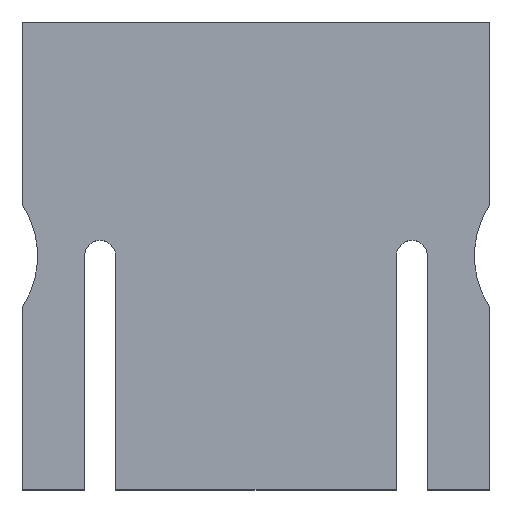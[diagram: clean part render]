
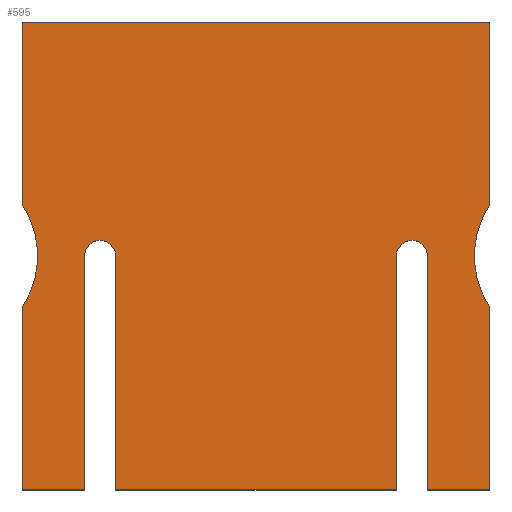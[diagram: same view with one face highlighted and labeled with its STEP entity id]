
A CAD part, top view. The second image highlights one B-rep face of the part: STEP entity #595.
In plain terms, the highlighted planar face has unit normal (0, 0, 1).
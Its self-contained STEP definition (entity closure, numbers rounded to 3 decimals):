
#84=CARTESIAN_POINT('',(273.05,47.625,6.35));
#85=VERTEX_POINT('',#84);
#92=CARTESIAN_POINT('',(266.7,47.625,6.35));
#93=VERTEX_POINT('',#92);
#94=CARTESIAN_POINT('',(269.875,47.625,6.35));
#95=DIRECTION('',(0.0,0.0,-1.0));
#96=DIRECTION('',(-1.0,0.0,0.0));
#97=AXIS2_PLACEMENT_3D('',#94,#95,#96);
#98=CIRCLE('',#97,3.175);
#99=EDGE_CURVE('',#93,#85,#98,.T.);
#124=CARTESIAN_POINT('',(266.7,0.0,6.35));
#125=VERTEX_POINT('',#124);
#126=CARTESIAN_POINT('',(266.7,0.0,6.35));
#127=DIRECTION('',(0.0,1.0,0.0));
#128=VECTOR('',#127,47.625);
#129=LINE('',#126,#128);
#130=EDGE_CURVE('',#125,#93,#129,.T.);
#155=CARTESIAN_POINT('',(209.55,0.0,6.35));
#156=VERTEX_POINT('',#155);
#157=CARTESIAN_POINT('',(209.55,0.0,6.35));
#158=DIRECTION('',(1.0,0.0,0.0));
#159=VECTOR('',#158,57.15);
#160=LINE('',#157,#159);
#161=EDGE_CURVE('',#156,#125,#160,.T.);
#186=CARTESIAN_POINT('',(209.55,47.625,6.35));
#187=VERTEX_POINT('',#186);
#188=CARTESIAN_POINT('',(209.55,47.625,6.35));
#189=DIRECTION('',(0.0,-1.0,0.0));
#190=VECTOR('',#189,47.625);
#191=LINE('',#188,#190);
#192=EDGE_CURVE('',#187,#156,#191,.T.);
#218=CARTESIAN_POINT('',(203.2,47.625,6.35));
#219=VERTEX_POINT('',#218);
#220=CARTESIAN_POINT('',(206.375,47.625,6.35));
#221=DIRECTION('',(0.0,0.0,-1.0));
#222=DIRECTION('',(-1.0,0.0,0.0));
#223=AXIS2_PLACEMENT_3D('',#220,#221,#222);
#224=CIRCLE('',#223,3.175);
#225=EDGE_CURVE('',#219,#187,#224,.T.);
#250=CARTESIAN_POINT('',(203.2,0.0,6.35));
#251=VERTEX_POINT('',#250);
#252=CARTESIAN_POINT('',(203.2,0.0,6.35));
#253=DIRECTION('',(0.0,1.0,0.0));
#254=VECTOR('',#253,47.625);
#255=LINE('',#252,#254);
#256=EDGE_CURVE('',#251,#219,#255,.T.);
#281=CARTESIAN_POINT('',(190.5,0.0,6.35));
#282=VERTEX_POINT('',#281);
#283=CARTESIAN_POINT('',(190.5,0.0,6.35));
#284=DIRECTION('',(1.0,0.0,0.0));
#285=VECTOR('',#284,12.7);
#286=LINE('',#283,#285);
#287=EDGE_CURVE('',#282,#251,#286,.T.);
#312=CARTESIAN_POINT('',(190.5,37.095,6.35));
#313=VERTEX_POINT('',#312);
#314=CARTESIAN_POINT('',(190.5,37.095,6.35));
#315=DIRECTION('',(0.0,-1.0,0.0));
#316=VECTOR('',#315,37.095);
#317=LINE('',#314,#316);
#318=EDGE_CURVE('',#313,#282,#317,.T.);
#344=CARTESIAN_POINT('',(190.5,58.155,6.35));
#345=VERTEX_POINT('',#344);
#346=CARTESIAN_POINT('',(174.625,47.625,6.35));
#347=DIRECTION('',(0.0,0.0,-1.0));
#348=DIRECTION('',(-0.833,0.553,0.0));
#349=AXIS2_PLACEMENT_3D('',#346,#347,#348);
#350=CIRCLE('',#349,19.05);
#351=EDGE_CURVE('',#345,#313,#350,.T.);
#376=CARTESIAN_POINT('',(190.5,95.25,6.35));
#377=VERTEX_POINT('',#376);
#378=CARTESIAN_POINT('',(190.5,95.25,6.35));
#379=DIRECTION('',(0.0,-1.0,0.0));
#380=VECTOR('',#379,37.095);
#381=LINE('',#378,#380);
#382=EDGE_CURVE('',#377,#345,#381,.T.);
#407=CARTESIAN_POINT('',(285.75,95.25,6.35));
#408=VERTEX_POINT('',#407);
#409=CARTESIAN_POINT('',(285.75,95.25,6.35));
#410=DIRECTION('',(-1.0,0.0,0.0));
#411=VECTOR('',#410,95.25);
#412=LINE('',#409,#411);
#413=EDGE_CURVE('',#408,#377,#412,.T.);
#438=CARTESIAN_POINT('',(285.75,58.155,6.35));
#439=VERTEX_POINT('',#438);
#440=CARTESIAN_POINT('',(285.75,58.155,6.35));
#441=DIRECTION('',(0.0,1.0,0.0));
#442=VECTOR('',#441,37.095);
#443=LINE('',#440,#442);
#444=EDGE_CURVE('',#439,#408,#443,.T.);
#470=CARTESIAN_POINT('',(285.75,37.095,6.35));
#471=VERTEX_POINT('',#470);
#472=CARTESIAN_POINT('',(301.625,47.625,6.35));
#473=DIRECTION('',(0.0,0.0,-1.0));
#474=DIRECTION('',(0.833,-0.553,0.0));
#475=AXIS2_PLACEMENT_3D('',#472,#473,#474);
#476=CIRCLE('',#475,19.05);
#477=EDGE_CURVE('',#471,#439,#476,.T.);
#502=CARTESIAN_POINT('',(285.75,0.0,6.35));
#503=VERTEX_POINT('',#502);
#504=CARTESIAN_POINT('',(285.75,0.0,6.35));
#505=DIRECTION('',(0.0,1.0,0.0));
#506=VECTOR('',#505,37.095);
#507=LINE('',#504,#506);
#508=EDGE_CURVE('',#503,#471,#507,.T.);
#533=CARTESIAN_POINT('',(273.05,0.0,6.35));
#534=VERTEX_POINT('',#533);
#535=CARTESIAN_POINT('',(273.05,0.0,6.35));
#536=DIRECTION('',(1.0,0.0,0.0));
#537=VECTOR('',#536,12.7);
#538=LINE('',#535,#537);
#539=EDGE_CURVE('',#534,#503,#538,.T.);
#562=CARTESIAN_POINT('',(273.05,47.625,6.35));
#563=DIRECTION('',(0.0,-1.0,0.0));
#564=VECTOR('',#563,47.625);
#565=LINE('',#562,#564);
#566=EDGE_CURVE('',#85,#534,#565,.T.);
#572=CARTESIAN_POINT('',(238.125,40.722,6.35));
#573=DIRECTION('',(0.0,0.0,1.0));
#574=DIRECTION('',(1.0,0.0,0.0));
#575=AXIS2_PLACEMENT_3D('',#572,#573,#574);
#576=PLANE('',#575);
#577=ORIENTED_EDGE('',*,*,#566,.T.);
#578=ORIENTED_EDGE('',*,*,#539,.T.);
#579=ORIENTED_EDGE('',*,*,#508,.T.);
#580=ORIENTED_EDGE('',*,*,#477,.T.);
#581=ORIENTED_EDGE('',*,*,#444,.T.);
#582=ORIENTED_EDGE('',*,*,#413,.T.);
#583=ORIENTED_EDGE('',*,*,#382,.T.);
#584=ORIENTED_EDGE('',*,*,#351,.T.);
#585=ORIENTED_EDGE('',*,*,#318,.T.);
#586=ORIENTED_EDGE('',*,*,#287,.T.);
#587=ORIENTED_EDGE('',*,*,#256,.T.);
#588=ORIENTED_EDGE('',*,*,#225,.T.);
#589=ORIENTED_EDGE('',*,*,#192,.T.);
#590=ORIENTED_EDGE('',*,*,#161,.T.);
#591=ORIENTED_EDGE('',*,*,#130,.T.);
#592=ORIENTED_EDGE('',*,*,#99,.T.);
#593=EDGE_LOOP('',(#577,#578,#579,#580,#581,#582,#583,#584,#585,#586,#587,#588,#589,#590,#591,#592));
#594=FACE_OUTER_BOUND('',#593,.T.);
#595=ADVANCED_FACE('',(#594),#576,.T.);
